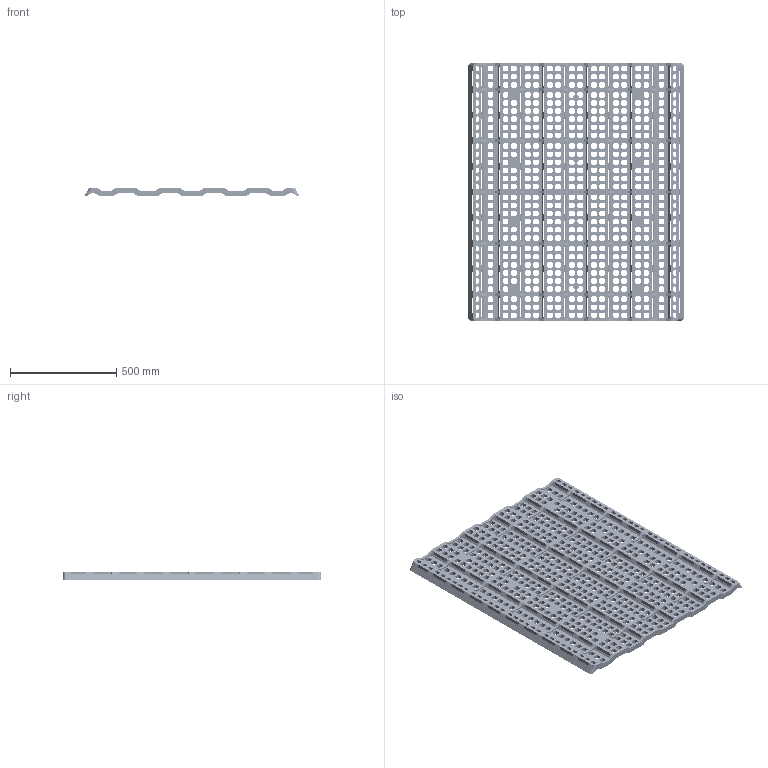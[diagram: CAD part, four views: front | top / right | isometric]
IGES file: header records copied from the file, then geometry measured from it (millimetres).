
Global section: file name: Filename.iges; native system: Open CASCADE 7.6; preprocessor: Open CASCADE IGES processor 7.6; date: 20241007.190908; units: millimetre
Bounding box: 1012.95 x 1216.15 x 38.1 mm (x, y, z)
Surface area: 3376255.9 mm2 (no closed solid volume)
Topology: 0 solids, 0 shells, 5318 faces, 31848 edges, 31848 vertices
Faces by surface type: plane 2946, revolution 2372
